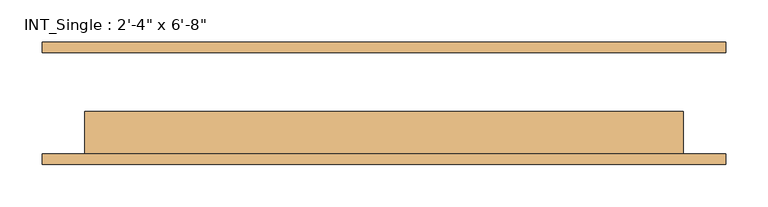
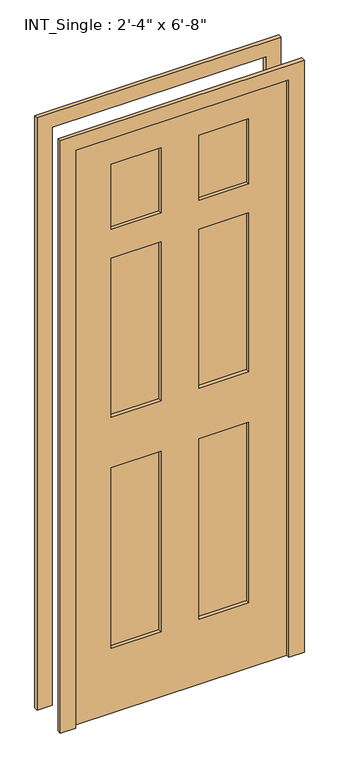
"""IFC4 building model written with IfcOpenShell, lengths in millimetres: door geometry."""

from ifc_helpers import new_model, si_unit, frame, origin, place, context, project, spatial, polyline, outline, extrude, source, transform, mapped, element, save


def door_c37b41b1(model_context):
    return source(origin(), model_context, "Body", "SweptSolid", [
        extrude(outline(polyline([(0.0, -406.4), (0.0, -355.6), (2032.0, -355.6), (2032.0, 355.6), (0.0, 355.6), (0.0, 406.4), (2082.8, 406.4), (2082.8, -406.4), (0.0, -406.4)])), frame((0.0, 60.325, 0.0), z_axis=(0.0, 1.0, 0.0), x_axis=(0.0, 0.0, 1.0)), (0.0, 0.0, 1.0), 12.7),
        extrude(outline(polyline([(0.0, 406.4), (2082.8, 406.4), (2082.8, -406.4), (0.0, -406.4), (0.0, -355.6), (2032.0, -355.6), (2032.0, 355.6), (0.0, 355.6), (0.0, 406.4)])), frame((0.0, -73.025, 0.0), z_axis=(0.0, 1.0, 0.0), x_axis=(0.0, 0.0, 1.0)), (0.0, 0.0, 1.0), 12.7),
        extrude(outline(polyline([(-63.5, -22.225), (-63.5, -47.625), (-228.6, -47.625), (-228.6, -22.225), (-63.5, -22.225)])), frame((0.0, 0.0, 1701.8), z_axis=(0.0, 0.0, 1.0), x_axis=(1.0, 0.0, 0.0)), (0.0, 0.0, 1.0), 228.6),
        extrude(outline(polyline([(228.6, -22.225), (228.6, -47.625), (63.5, -47.625), (63.5, -22.225), (228.6, -22.225)])), frame((0.0, 0.0, 1701.8), z_axis=(0.0, 0.0, 1.0), x_axis=(1.0, 0.0, 0.0)), (0.0, 0.0, 1.0), 228.6),
        extrude(outline(polyline([(-63.5, -22.225), (-63.5, -47.625), (-228.6, -47.625), (-228.6, -22.225), (-63.5, -22.225)])), frame((0.0, 0.0, 1041.4), z_axis=(0.0, 0.0, 1.0), x_axis=(1.0, 0.0, 0.0)), (0.0, 0.0, 1.0), 558.8),
        extrude(outline(polyline([(228.6, -22.225), (228.6, -47.625), (63.5, -47.625), (63.5, -22.225), (228.6, -22.225)])), frame((0.0, 0.0, 1041.4), z_axis=(0.0, 0.0, 1.0), x_axis=(1.0, 0.0, 0.0)), (0.0, 0.0, 1.0), 558.8),
        extrude(outline(polyline([(-63.5, -22.225), (-63.5, -47.625), (-228.6, -47.625), (-228.6, -22.225), (-63.5, -22.225)])), frame((0.0, 0.0, 228.6), z_axis=(0.0, 0.0, 1.0), x_axis=(1.0, 0.0, 0.0)), (0.0, 0.0, 1.0), 635.0),
        extrude(outline(polyline([(228.6, -22.225), (228.6, -47.625), (63.5, -47.625), (63.5, -22.225), (228.6, -22.225)])), frame((0.0, 0.0, 228.6), z_axis=(0.0, 0.0, 1.0), x_axis=(1.0, 0.0, 0.0)), (0.0, 0.0, 1.0), 635.0),
        extrude(outline(polyline([(2032.0, 355.6), (2032.0, -355.6), (0.0, -355.6), (0.0, 355.6), (2032.0, 355.6)]), holes=[polyline([(1930.4, -63.5), (1701.8, -63.5), (1701.8, -228.6), (1930.4, -228.6), (1930.4, -63.5)]), polyline([(1930.4, 228.6), (1701.8, 228.6), (1701.8, 63.5), (1930.4, 63.5), (1930.4, 228.6)]), polyline([(1600.2, -63.5), (1041.4, -63.5), (1041.4, -228.6), (1600.2, -228.6), (1600.2, -63.5)]), polyline([(1600.2, 228.6), (1041.4, 228.6), (1041.4, 63.5), (1600.2, 63.5), (1600.2, 228.6)]), polyline([(863.6, -63.5), (228.6, -63.5), (228.6, -228.6), (863.6, -228.6), (863.6, -63.5)]), polyline([(863.6, 228.6), (228.6, 228.6), (228.6, 63.5), (863.6, 63.5), (863.6, 228.6)])]), frame((0.0, -60.325, 0.0), z_axis=(0.0, 1.0, 0.0), x_axis=(0.0, 0.0, 1.0)), (0.0, 0.0, 1.0), 50.8),
    ])


if __name__ == "__main__":
    model = new_model("IFC4")
    model_context = context("Model", 3, world=origin())
    ifc_project = project(units=[si_unit("LENGTHUNIT", "METRE", prefix="MILLI")], contexts=[model_context])
    site = spatial("IfcSite", under=ifc_project)
    building = spatial("IfcBuilding", under=site)
    placement = place(None, origin())
    door_shape = door_c37b41b1(model_context)
    element("IfcDoor", 1, ObjectType="INT_Single : 2'-4\" x 6'-8\"", at=placement, inside=building, context=model_context, shape_type="MappedRepresentation", body=[
        mapped(door_shape, transform((0.0, 0.0, 0.0), x_axis=(1.0, 0.0, 0.0), y_axis=(0.0, 1.0, 0.0), z_axis=(0.0, 0.0, 1.0))),
    ])
    save(model, "model.ifc")
